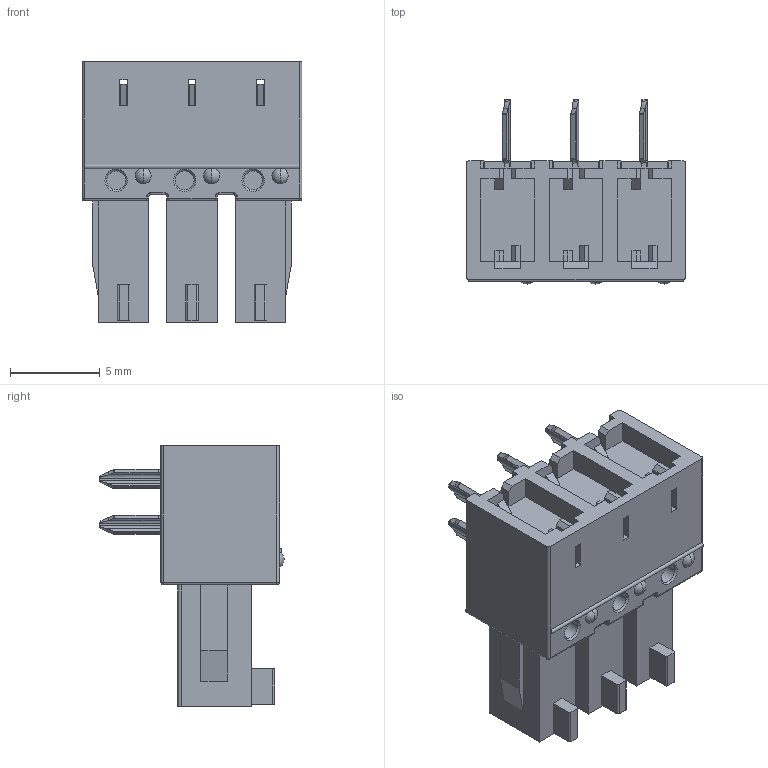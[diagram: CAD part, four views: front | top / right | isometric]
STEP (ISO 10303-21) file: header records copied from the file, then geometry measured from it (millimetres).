
FILE_DESCRIPTION((''),'2;1');
FILE_NAME('333','2019-04-18T',('zhenbing.lai'),(''),'CREO PARAMETRIC BY PTC INC, 2016260','CREO PARAMETRIC BY PTC INC, 2016260','');
FILE_SCHEMA(('CONFIG_CONTROL_DESIGN'));
Length unit declared in the file: millimetre
Products named in the file (1): 333
Bounding box: 12.22 x 10.25 x 14.5 mm (x, y, z)
Volume: 758.7 mm3; surface area: 964.2 mm2
Topology: 1 solids, 1 shells, 499 faces, 1431 edges, 939 vertices
Faces by surface type: plane 259, cylinder 106, bspline 68, torus 44, cone 12, sphere 10
Entity records: 18670 total; most frequent: CARTESIAN_POINT 6314, ORIENTED_EDGE 2842, DIRECTION 2184, EDGE_CURVE 1421, VERTEX_POINT 939, VECTOR 786, LINE 786, AXIS2_PLACEMENT_3D 699
